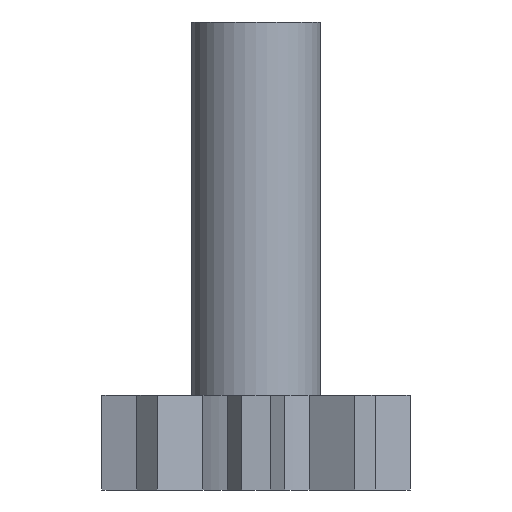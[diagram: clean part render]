
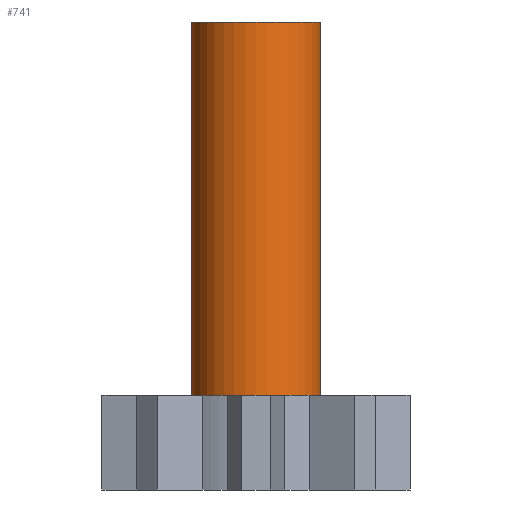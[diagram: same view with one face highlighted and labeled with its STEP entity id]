
A CAD part, front view. The second image highlights one B-rep face of the part: STEP entity #741.
In plain terms, the highlighted cylindrical face has radius 4.5 mm (diameter 9 mm), a full revolution.
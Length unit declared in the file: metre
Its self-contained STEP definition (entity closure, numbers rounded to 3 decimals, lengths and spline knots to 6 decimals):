
#57=CIRCLE('',#782,0.0045);
#60=CIRCLE('',#813,0.0045);
#262=ORIENTED_EDGE('',*,*,#372,.F.);
#263=ORIENTED_EDGE('',*,*,#301,.T.);
#301=EDGE_CURVE('',#405,#405,#57,.T.);
#372=EDGE_CURVE('',#442,#442,#60,.T.);
#405=VERTEX_POINT('',#1095);
#442=VERTEX_POINT('',#1231);
#648=EDGE_LOOP('',(#262));
#649=EDGE_LOOP('',(#263));
#690=FACE_BOUND('',#648,.T.);
#691=FACE_BOUND('',#649,.T.);
#704=CYLINDRICAL_SURFACE('',#812,0.0045);
#741=ADVANCED_FACE('',(#690,#691),#704,.T.);
#782=AXIS2_PLACEMENT_3D('',#1094,#884,#885);
#812=AXIS2_PLACEMENT_3D('',#1229,#1012,#1013);
#813=AXIS2_PLACEMENT_3D('',#1230,#1014,#1015);
#884=DIRECTION('',(0.,0.,1.));
#885=DIRECTION('',(1.,0.,0.));
#1012=DIRECTION('',(0.,0.,-1.));
#1013=DIRECTION('',(-1.,0.,0.));
#1014=DIRECTION('',(0.,0.,1.));
#1015=DIRECTION('',(1.,0.,0.));
#1094=CARTESIAN_POINT('',(0.,0.,0.0066));
#1095=CARTESIAN_POINT('',(0.0045,0.,0.0066));
#1229=CARTESIAN_POINT('',(0.,0.,0.0326));
#1230=CARTESIAN_POINT('',(0.,0.,0.0326));
#1231=CARTESIAN_POINT('',(0.0045,0.,0.0326));
